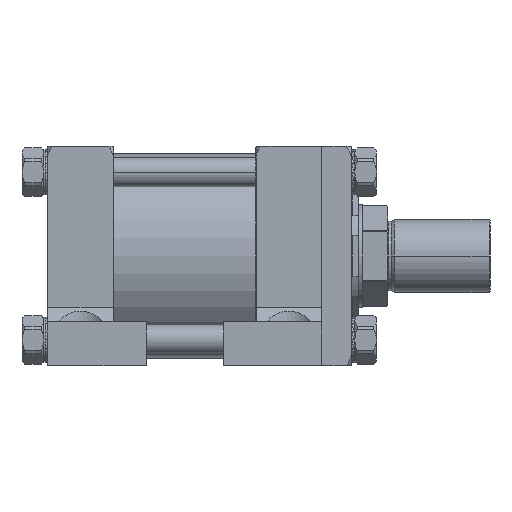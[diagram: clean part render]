
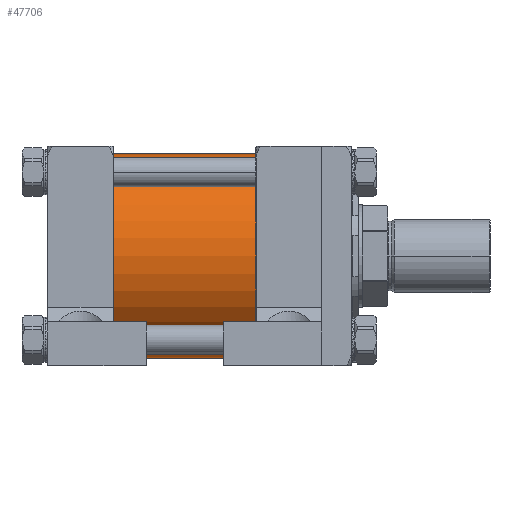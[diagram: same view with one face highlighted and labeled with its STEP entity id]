
A CAD part, front view. The second image highlights one B-rep face of the part: STEP entity #47706.
In plain terms, the highlighted cylindrical face has radius 88.9 mm (diameter 177.8 mm), a partial arc.
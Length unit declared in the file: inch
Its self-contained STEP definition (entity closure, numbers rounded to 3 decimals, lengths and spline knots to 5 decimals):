
#4518 = LINE ( 'NONE', #42675, #45623 ) ;
#5815 = FACE_OUTER_BOUND ( 'NONE', #52250, .T. ) ;
#9174 = AXIS2_PLACEMENT_3D ( 'NONE', #42732, #39309, #23871 ) ;
#9823 = CARTESIAN_POINT ( 'NONE',  ( -4.25, 0., 3.5 ) ) ;
#10036 = DIRECTION ( 'NONE',  ( 1., 0., 0. ) ) ;
#12681 = DIRECTION ( 'NONE',  ( 1., 0., 0. ) ) ;
#13366 = CARTESIAN_POINT ( 'NONE',  ( -4.25, 0., -3.5 ) ) ;
#15450 = DIRECTION ( 'NONE',  ( 1., 0., 0. ) ) ;
#15687 = CIRCLE ( 'NONE', #50691, 3.5 ) ;
#15890 = ORIENTED_EDGE ( 'NONE', *, *, #43246, .T. ) ;
#16617 = AXIS2_PLACEMENT_3D ( 'NONE', #17693, #12681, #57877 ) ;
#16872 = EDGE_CURVE ( 'NONE', #28437, #54740, #26524, .T. ) ;
#17225 = CARTESIAN_POINT ( 'NONE',  ( -4.25, 0., 0. ) ) ;
#17693 = CARTESIAN_POINT ( 'NONE',  ( -9.625, 0., 0. ) ) ;
#22249 = EDGE_CURVE ( 'NONE', #28437, #49160, #53475, .T. ) ;
#23871 = DIRECTION ( 'NONE',  ( 0., 0., -1. ) ) ;
#23998 = ORIENTED_EDGE ( 'NONE', *, *, #16872, .T. ) ;
#25293 = VERTEX_POINT ( 'NONE', #13366 ) ;
#25737 = ORIENTED_EDGE ( 'NONE', *, *, #42783, .F. ) ;
#26524 = CIRCLE ( 'NONE', #16617, 3.5 ) ;
#28437 = VERTEX_POINT ( 'NONE', #40216 ) ;
#33255 = DIRECTION ( 'NONE',  ( 1., 0., 0. ) ) ;
#35425 = CARTESIAN_POINT ( 'NONE',  ( -9.625, 0., -3.5 ) ) ;
#36088 = ORIENTED_EDGE ( 'NONE', *, *, #22249, .F. ) ;
#39309 = DIRECTION ( 'NONE',  ( 1., 0., 0. ) ) ;
#40216 = CARTESIAN_POINT ( 'NONE',  ( -9.625, 0., 3.5 ) ) ;
#42675 = CARTESIAN_POINT ( 'NONE',  ( -9.625, 0., -3.5 ) ) ;
#42732 = CARTESIAN_POINT ( 'NONE',  ( -9.625, 0., 0. ) ) ;
#42783 = EDGE_CURVE ( 'NONE', #49160, #25293, #15687, .T. ) ;
#43246 = EDGE_CURVE ( 'NONE', #54740, #25293, #4518, .T. ) ;
#44101 = CARTESIAN_POINT ( 'NONE',  ( -9.625, 0., 3.5 ) ) ;
#45383 = DIRECTION ( 'NONE',  ( 0., 1., 0. ) ) ;
#45623 = VECTOR ( 'NONE', #33255, 39.37008 ) ;
#47706 = ADVANCED_FACE ( 'NONE', ( #5815 ), #61806, .T. ) ;
#49160 = VERTEX_POINT ( 'NONE', #9823 ) ;
#50691 = AXIS2_PLACEMENT_3D ( 'NONE', #17225, #15450, #45383 ) ;
#52250 = EDGE_LOOP ( 'NONE', ( #36088, #23998, #15890, #25737 ) ) ;
#53475 = LINE ( 'NONE', #44101, #60917 ) ;
#54740 = VERTEX_POINT ( 'NONE', #35425 ) ;
#57877 = DIRECTION ( 'NONE',  ( 0., 1., 0. ) ) ;
#60917 = VECTOR ( 'NONE', #10036, 39.37008 ) ;
#61806 = CYLINDRICAL_SURFACE ( 'NONE', #9174, 3.5 ) ;
